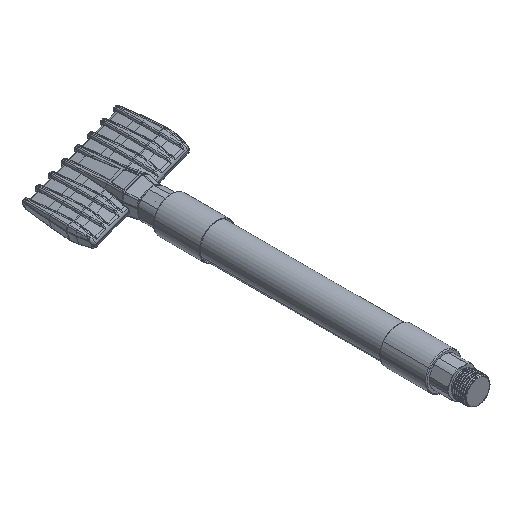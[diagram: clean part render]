
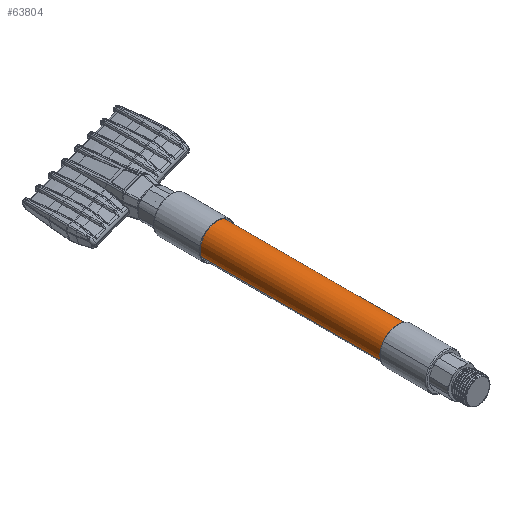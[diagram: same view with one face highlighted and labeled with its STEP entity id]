
A CAD part, isometric view. The second image highlights one B-rep face of the part: STEP entity #63804.
In plain terms, the highlighted cylindrical face has radius 10.4 mm (diameter 20.8 mm), a partial arc.
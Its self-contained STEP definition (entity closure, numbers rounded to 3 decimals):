
#2414 = VERTEX_POINT ( 'NONE', #20281 ) ;
#2506 = AXIS2_PLACEMENT_3D ( 'NONE', #41144, #41594, #42041 ) ;
#3927 = AXIS2_PLACEMENT_3D ( 'NONE', #20570, #83616, #78065 ) ;
#7921 = DIRECTION ( 'NONE',  ( 0., 0., 1. ) ) ;
#18449 = LINE ( 'NONE', #26677, #38903 ) ;
#18831 = EDGE_CURVE ( 'NONE', #42892, #28335, #43777, .T. ) ;
#20252 = ORIENTED_EDGE ( 'NONE', *, *, #27573, .F. ) ;
#20281 = CARTESIAN_POINT ( 'NONE',  ( 0., 170., -10.4 ) ) ;
#20570 = CARTESIAN_POINT ( 'NONE',  ( 0., 170., 0. ) ) ;
#23124 = AXIS2_PLACEMENT_3D ( 'NONE', #49812, #70965, #7921 ) ;
#23235 = CARTESIAN_POINT ( 'NONE',  ( 0., 170., 10.4 ) ) ;
#26677 = CARTESIAN_POINT ( 'NONE',  ( 0., 170., -10.4 ) ) ;
#27573 = EDGE_CURVE ( 'NONE', #59682, #2414, #31904, .T. ) ;
#28335 = VERTEX_POINT ( 'NONE', #33758 ) ;
#31904 = CIRCLE ( 'NONE', #23124, 10.4 ) ;
#33758 = CARTESIAN_POINT ( 'NONE',  ( 0., 0., -10.4 ) ) ;
#35956 = EDGE_CURVE ( 'NONE', #59682, #42892, #48197, .T. ) ;
#38903 = VECTOR ( 'NONE', #76409, 1000. ) ;
#39995 = VECTOR ( 'NONE', #82255, 1000. ) ;
#41144 = CARTESIAN_POINT ( 'NONE',  ( 0., 0., 0. ) ) ;
#41520 = ORIENTED_EDGE ( 'NONE', *, *, #35956, .T. ) ;
#41594 = DIRECTION ( 'NONE',  ( 0., 1., 0. ) ) ;
#42041 = DIRECTION ( 'NONE',  ( 0., 0., 1. ) ) ;
#42892 = VERTEX_POINT ( 'NONE', #64041 ) ;
#43777 = CIRCLE ( 'NONE', #2506, 10.4 ) ;
#48197 = LINE ( 'NONE', #61533, #39995 ) ;
#49812 = CARTESIAN_POINT ( 'NONE',  ( 0., 170., 0. ) ) ;
#55007 = EDGE_LOOP ( 'NONE', ( #20252, #41520, #68365, #57782 ) ) ;
#55630 = EDGE_CURVE ( 'NONE', #2414, #28335, #18449, .T. ) ;
#57304 = FACE_OUTER_BOUND ( 'NONE', #55007, .T. ) ;
#57782 = ORIENTED_EDGE ( 'NONE', *, *, #55630, .F. ) ;
#59682 = VERTEX_POINT ( 'NONE', #23235 ) ;
#61533 = CARTESIAN_POINT ( 'NONE',  ( 0., 170., 10.4 ) ) ;
#62418 = CYLINDRICAL_SURFACE ( 'NONE', #3927, 10.4 ) ;
#63804 = ADVANCED_FACE ( 'NONE', ( #57304 ), #62418, .T. ) ;
#64041 = CARTESIAN_POINT ( 'NONE',  ( 0., 0., 10.4 ) ) ;
#68365 = ORIENTED_EDGE ( 'NONE', *, *, #18831, .T. ) ;
#70965 = DIRECTION ( 'NONE',  ( 0., 1., 0. ) ) ;
#76409 = DIRECTION ( 'NONE',  ( 0., -1., 0. ) ) ;
#78065 = DIRECTION ( 'NONE',  ( 0., 0., -1. ) ) ;
#82255 = DIRECTION ( 'NONE',  ( 0., -1., 0. ) ) ;
#83616 = DIRECTION ( 'NONE',  ( 0., -1., 0. ) ) ;
